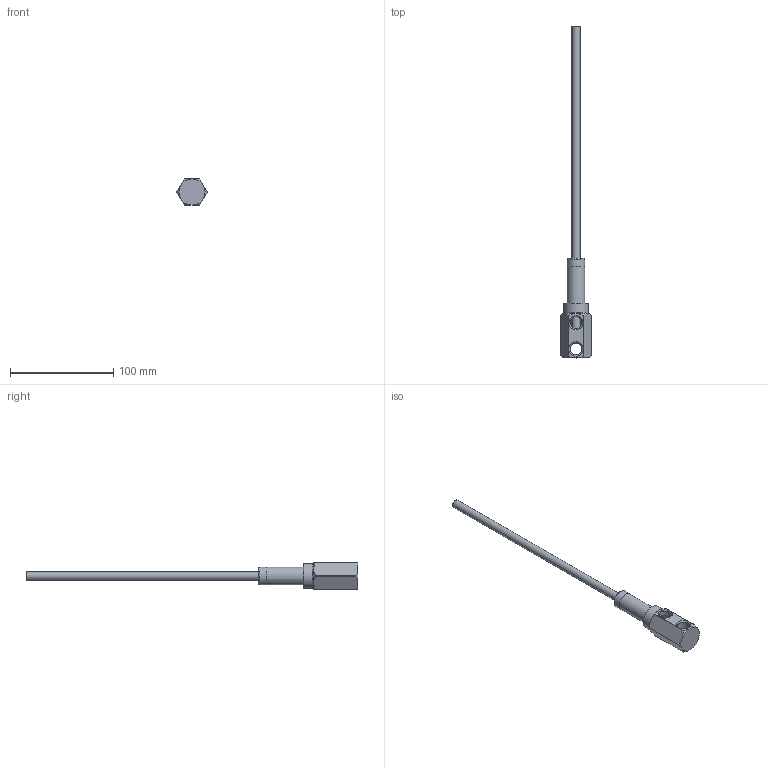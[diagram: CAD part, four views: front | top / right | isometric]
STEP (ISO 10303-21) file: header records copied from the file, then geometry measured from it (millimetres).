
FILE_DESCRIPTION(/* description */ (''),/* implementation_level */ '2;1');
FILE_NAME(/* name */ 'C:/Users/drich/Desktop/381N-4 v1.step',/* time_stamp */ '2020-01-15T19:41:16-06:00',/* author */ (''),/* organization */ (''),/* preprocessor_version */ 'ST-DEVELOPER v18',/* originating_system */ 'Autodesk Translation Framework v8.12.0.6',/* authorisation */ '');
FILE_SCHEMA (('AUTOMOTIVE_DESIGN { 1 0 10303 214 3 1 1 }'));
Length unit declared in the file: inch
Products named in the file (4): 381N-4; 381H-4; SSPN38-2; 312T-12
Assembly tree (3 placements, depth 2):
  381N-4
    381H-4
    SSPN38-2
    312T-12
Bounding box: 29.26 x 321.39 x 25.4 mm (x, y, z)
Volume: 32662.7 mm3; surface area: 25165.8 mm2
Topology: 3 solids, 3 shells, 47 faces, 127 edges, 87 vertices
Faces by surface type: cylinder 18, plane 14, cone 13, torus 2
Full cylindrical faces by diameter (mm): 5.334 x1, 6.909 x1, 7.818 x1, 11.668 x3, 12.522 x1, 15.173 x1, 17.094 x2, 17.145 x1, 23.8 x1
Entity records: 1735 total; most frequent: CARTESIAN_POINT 391, DIRECTION 281, ORIENTED_EDGE 254, EDGE_CURVE 127, AXIS2_PLACEMENT_3D 123, VERTEX_POINT 87, CIRCLE 69, EDGE_LOOP 58
